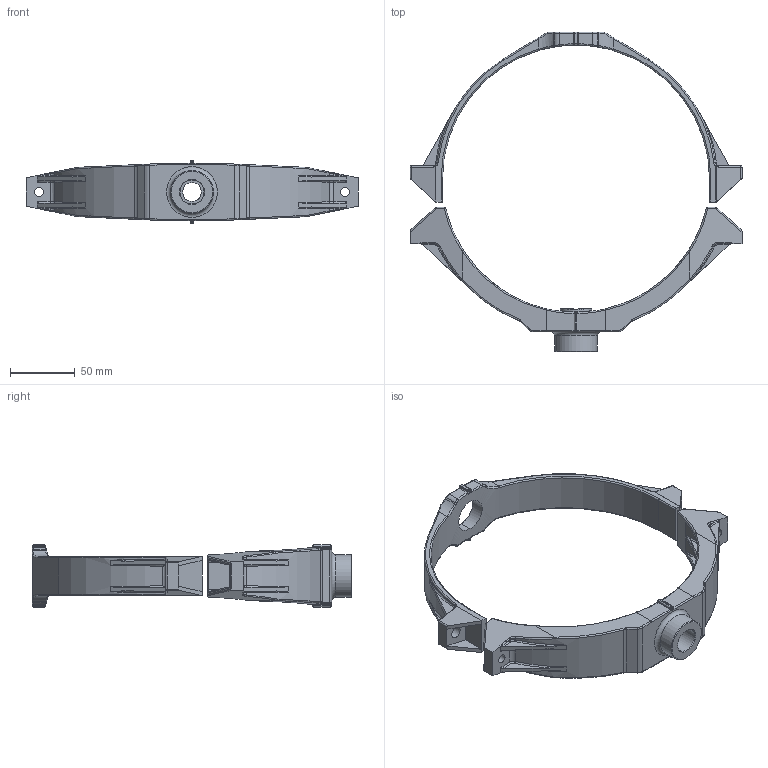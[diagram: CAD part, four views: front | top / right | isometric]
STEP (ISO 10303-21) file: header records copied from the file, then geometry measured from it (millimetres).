
FILE_DESCRIPTION(/* description */ (''),/* implementation_level */ '2;1');
FILE_NAME(/* name */ 'AU19 A099 00.stp',/* time_stamp */ '2025-07-25T14:13:15+08:00',/* author */ (''),/* organization */ (''),/* preprocessor_version */ 'ST-DEVELOPER v11',/* originating_system */ 'SIEMENS PLM Software NX 7.5',/* authorisation */ '');
FILE_SCHEMA (('CONFIG_CONTROL_DESIGN'));
Length unit declared in the file: millimetre
Products named in the file (1): Admi3CF6xyta
Bounding box: 256 x 246.5 x 48 mm (x, y, z)
Volume: 227166.2 mm3; surface area: 82998.6 mm2
Topology: 2 solids, 2 shells, 751 faces, 1808 edges, 998 vertices
Faces by surface type: cylinder 245, bspline 215, plane 159, sphere 69, torus 59, cone 4
Full cylindrical faces by diameter (mm): 6.8 x2, 9 x2, 18.5 x1, 24 x1, 29.7 x1, 33 x1, 36.7 x1
Entity records: 26359 total; most frequent: CARTESIAN_POINT 10342, ORIENTED_EDGE 3396, DIRECTION 3329, EDGE_CURVE 1698, AXIS2_PLACEMENT_3D 1391, VERTEX_POINT 985, EDGE_LOOP 797, ADVANCED_FACE 751
